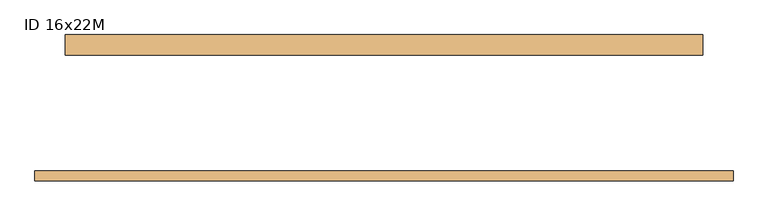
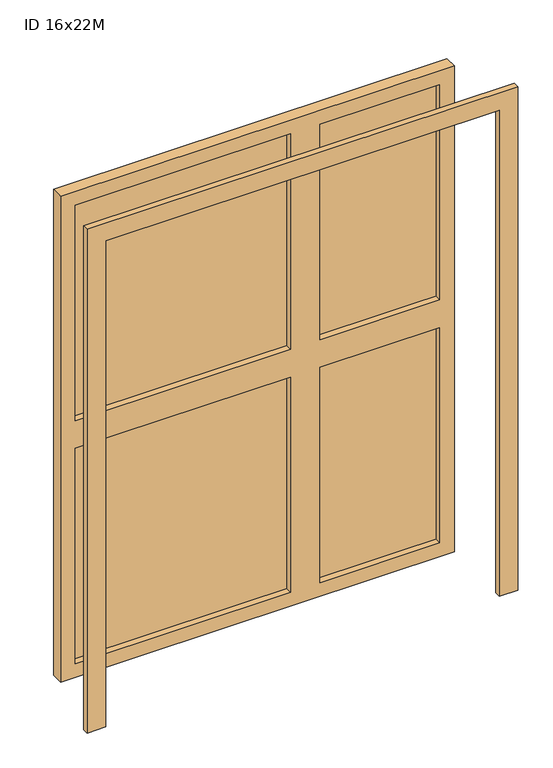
"""IFC4 building model written with IfcOpenShell, lengths in millimetres: door geometry, Y-dør tofløya med glas : ID 16x22M."""

import ifcopenshell
import ifcopenshell.guid

model = None  # the IFC model being written
_history = None  # IfcOwnerHistory: only IFC2X3 demands one
_inside = {}  # id of a spatial element -> (the spatial element, [elements in it])
_under = {}  # id of a project, library or spatial element -> (it, [spatial elements below it])
_declared = {}  # id of a project -> (the project, [libraries it declares])
_typed = {}  # id of a type object -> (the type object, [elements of that type])
_made_of = {}  # id of a material, layer set ... -> (it, [elements and type objects made of it])


def new_model(schema):
    """Start an empty IFC model of exactly this schema.

    Asked for "IFC4X3", IfcOpenShell would pick the latest addendum, in which some entities
    have other attributes; the version numbers below select the first issue.
    IFC2X3 requires an IfcOwnerHistory on every rooted entity: one is made here for all.
    """
    global model, _history
    if schema == "IFC4X3":
        model = ifcopenshell.file(schema_version=(4, 3, 0, 0))
    else:
        model = ifcopenshell.file(schema=schema)
    _inside.clear()
    _under.clear()
    _declared.clear()
    _typed.clear()
    _made_of.clear()
    _history = None
    if model.schema == "IFC2X3":
        org = make("IfcOrganization", Name="unknown")
        user = make(
            "IfcPersonAndOrganization",
            ThePerson=make("IfcPerson", FamilyName="unknown"),
            TheOrganization=org,
        )
        app = make(
            "IfcApplication",
            ApplicationDeveloper=org,
            Version="unknown",
            ApplicationFullName="unknown",
            ApplicationIdentifier="unknown",
        )
        _history = make(
            "IfcOwnerHistory",
            OwningUser=user,
            OwningApplication=app,
            ChangeAction="ADDED",
            CreationDate=0,
        )
    return model


def make(cls, **values):
    """One entity of the class cls with the attributes given. An attribute that is None is left unset."""
    return model.create_entity(
        cls, **{name: value for name, value in values.items() if value is not None}
    )


def rooted(cls, **values):
    """An entity with a GlobalId (a new one), such as an element, a storey or a relation."""
    return make(cls, GlobalId=ifcopenshell.guid.new(), OwnerHistory=_history, **values)


def si_unit(unit_type, name, prefix=None):
    """IfcSIUnit, for example si_unit("LENGTHUNIT", "METRE", prefix="MILLI")."""
    return make("IfcSIUnit", UnitType=unit_type, Prefix=prefix, Name=name)


def assignment(units):
    """IfcUnitAssignment: the units of a project."""
    return None if units is None else make("IfcUnitAssignment", Units=units)


def point(xyz):
    """IfcCartesianPoint."""
    return None if xyz is None else make("IfcCartesianPoint", Coordinates=xyz)


def direction(xyz):
    """IfcDirection."""
    return None if xyz is None else make("IfcDirection", DirectionRatios=xyz)


def frame(location, z_axis=None, x_axis=None):
    """IfcAxis2Placement3D, a coordinate frame: its origin and axes. An axis left out is left unset."""
    return make(
        "IfcAxis2Placement3D",
        Location=point(location),
        Axis=direction(z_axis),
        RefDirection=direction(x_axis),
    )


def origin():
    """The frame at (0, 0, 0) with its axes left unset."""
    return frame((0.0, 0.0, 0.0))


def place(relative_to, where):
    """IfcLocalPlacement: puts the frame where relative to a parent placement (None: the world)."""
    return make(
        "IfcLocalPlacement", PlacementRelTo=relative_to, RelativePlacement=where
    )


def context(
    kind, dimensions, precision=None, world=None, true_north=None, identifier=None
):
    """IfcGeometricRepresentationContext, for example the 3D "Model" context."""
    return make(
        "IfcGeometricRepresentationContext",
        ContextIdentifier=identifier,
        ContextType=kind,
        CoordinateSpaceDimension=dimensions,
        Precision=precision,
        WorldCoordinateSystem=world,
        TrueNorth=true_north,
    )


def project(units=None, contexts=None):
    """IfcProject with its units and contexts."""
    return rooted(
        "IfcProject",
        Name="project",
        RepresentationContexts=contexts,
        UnitsInContext=assignment(units),
    )


def spatial(cls, under=None, at=None, **own):
    """A site, building, storey or space (cls), placed at a placement, below another one or the project."""
    s = rooted(cls, ObjectPlacement=at, **own)
    if under is not None:
        _under.setdefault(under.id(), (under, []))[1].append(s)
    return s


def polyline(points):
    """IfcPolyline through the points."""
    return make("IfcPolyline", Points=[point(p) for p in points])


def outline(outer, holes=None, kind="AREA"):
    """IfcArbitraryClosedProfileDef: a profile drawn as a closed curve; with holes, ...WithVoids."""
    if holes is None:
        return make("IfcArbitraryClosedProfileDef", ProfileType=kind, OuterCurve=outer)
    return make(
        "IfcArbitraryProfileDefWithVoids",
        ProfileType=kind,
        OuterCurve=outer,
        InnerCurves=holes,
    )


def extrude(swept, where, along, depth):
    """IfcExtrudedAreaSolid: the profile swept, set in the frame where, extruded along a direction by depth."""
    return make(
        "IfcExtrudedAreaSolid",
        SweptArea=swept,
        Position=where,
        ExtrudedDirection=direction(along),
        Depth=depth,
    )


def shape(context_of_items, identifier, shape_type, items):
    """IfcShapeRepresentation: the items that make up one representation, for example the "Body"."""
    return make(
        "IfcShapeRepresentation",
        ContextOfItems=context_of_items,
        RepresentationIdentifier=identifier,
        RepresentationType=shape_type,
        Items=items,
    )


def source(mapping_origin, context_of_items, identifier, shape_type, items):
    """IfcRepresentationMap: a shape defined once, which mapped items show again and again."""
    return make(
        "IfcRepresentationMap",
        MappingOrigin=mapping_origin,
        MappedRepresentation=shape(context_of_items, identifier, shape_type, items),
    )


def transform(
    local_origin,
    x_axis=None,
    y_axis=None,
    z_axis=None,
    scale=None,
    scale2=None,
    scale3=None,
    uniform=True,
):
    """IfcCartesianTransformationOperator3D, or its non-uniform kind. x_axis, y_axis, z_axis: its Axis1, 2, 3."""
    if uniform:
        return make(
            "IfcCartesianTransformationOperator3D",
            Axis1=direction(x_axis),
            Axis2=direction(y_axis),
            LocalOrigin=point(local_origin),
            Scale=scale,
            Axis3=direction(z_axis),
        )
    return make(
        "IfcCartesianTransformationOperator3DnonUniform",
        Axis1=direction(x_axis),
        Axis2=direction(y_axis),
        LocalOrigin=point(local_origin),
        Scale=scale,
        Axis3=direction(z_axis),
        Scale2=scale2,
        Scale3=scale3,
    )


def mapped(mapping_source, mapping_target):
    """IfcMappedItem: shows the shape of a source again, moved by a transform."""
    return make(
        "IfcMappedItem", MappingSource=mapping_source, MappingTarget=mapping_target
    )


def made_of(thing, what):
    """Note that an element or type object is made of a material, layer set ...; save() writes the relation."""
    if what is not None:
        _made_of.setdefault(what.id(), (what, []))[1].append(thing)
    return thing


def element(
    cls,
    number,
    at=None,
    inside=None,
    cuts=None,
    type_object=None,
    material=None,
    context=None,
    identifier="Body",
    shape_type=None,
    held_by="IfcProductDefinitionShape",
    body=None,
    shapes=None,
    **own,
):
    """One element of the class cls, such as IfcWall. Its Tag is "e" and its number.

    at: its placement. inside: the storey or other place that contains it. cuts: it is an
    opening in that element (IfcRelVoidsElement). A single representation is given by context,
    identifier, shape_type and body (its items); several are given by shapes. held_by: the class
    of the entity that holds the representations. save() writes the other relations.
    """
    e = rooted(cls, Tag="e%d" % number, ObjectPlacement=at, **own)
    if body is not None:
        shapes = [shape(context, identifier, shape_type, body)]
    if shapes is not None:
        e.Representation = make(held_by, Representations=shapes)
    if inside is not None:
        _inside.setdefault(inside.id(), (inside, []))[1].append(e)
    if cuts is not None:
        rooted(
            "IfcRelVoidsElement", RelatingBuildingElement=cuts, RelatedOpeningElement=e
        )
    if type_object is not None:
        _typed.setdefault(type_object.id(), (type_object, []))[1].append(e)
    return made_of(e, material)


def aggregate(whole, parts):
    """IfcRelAggregates: a whole, such as a stair, and the parts it consists of."""
    return rooted("IfcRelAggregates", RelatingObject=whole, RelatedObjects=parts)


def save(model, path):
    """Write the relations noted so far, then the file.

    IfcRelAggregates (storeys below a building ...), IfcRelContainedInSpatialStructure (elements
    in a storey), IfcRelDefinesByType, IfcRelAssociatesMaterial and IfcRelDeclares: one each for
    every whole, place, type object, material and project.
    """
    for whole, parts in _under.values():
        aggregate(whole, parts)
    for where, things in _inside.values():
        rooted(
            "IfcRelContainedInSpatialStructure",
            RelatedElements=things,
            RelatingStructure=where,
        )
    for kind, things in _typed.values():
        rooted("IfcRelDefinesByType", RelatedObjects=things, RelatingType=kind)
    for what, things in _made_of.values():
        rooted("IfcRelAssociatesMaterial", RelatedObjects=things, RelatingMaterial=what)
    for by, libraries in _declared.values():
        rooted("IfcRelDeclares", RelatingContext=by, RelatedDefinitions=libraries)
    model.write(path)


def id_16x22m_5dfcd5f5(model_context):
    return source(origin(), model_context, "Body", "SweptSolid", [
        extrude(outline(polyline([(2100.0, 102.0), (2100.0, -1508.0), (0.0, -1508.0), (0.0, 102.0), (2100.0, 102.0)]), holes=[polyline([(990.0, -448.0), (990.0, 42.0), (60.0, 42.0), (60.0, -448.0), (990.0, -448.0)]), polyline([(1110.0, -448.0), (2040.0, -448.0), (2040.0, 42.0), (1110.0, 42.0), (1110.0, -448.0)]), polyline([(990.0, -568.0), (60.0, -568.0), (60.0, -1448.0), (990.0, -1448.0), (990.0, -568.0)]), polyline([(2040.0, -568.0), (1110.0, -568.0), (1110.0, -1448.0), (2040.0, -1448.0), (2040.0, -568.0)])]), frame((0.0, 121.0, 0.0), z_axis=(0.0, 1.0, 0.0), x_axis=(0.0, 0.0, 1.0)), (0.0, 0.0, 1.0), 51.0),
        extrude(outline(polyline([(2100.0, -1508.0), (2100.0, 102.0), (0.0, 102.0), (0.0, 178.0), (2176.0, 178.0), (2176.0, -1584.0), (0.0, -1584.0), (0.0, -1508.0), (2100.0, -1508.0)])), frame((0.0, -197.0, 0.0), z_axis=(0.0, 1.0, 0.0), x_axis=(0.0, 0.0, 1.0)), (0.0, 0.0, 1.0), 25.0),
        extrude(outline(polyline([(-448.0, 152.0), (42.0, 152.0), (42.0, 147.0), (-448.0, 147.0), (-448.0, 152.0)])), frame((0.0, 0.0, 1110.0), z_axis=(0.0, 0.0, 1.0), x_axis=(1.0, 0.0, 0.0)), (0.0, 0.0, 1.0), 930.0),
        extrude(outline(polyline([(-1448.0, 152.0), (-568.0, 152.0), (-568.0, 147.0), (-1448.0, 147.0), (-1448.0, 152.0)])), frame((0.0, 0.0, 1110.0), z_axis=(0.0, 0.0, 1.0), x_axis=(1.0, 0.0, 0.0)), (0.0, 0.0, 1.0), 930.0),
        extrude(outline(polyline([(-1448.0, 152.0), (-568.0, 152.0), (-568.0, 147.0), (-1448.0, 147.0), (-1448.0, 152.0)])), frame((0.0, 0.0, 60.0), z_axis=(0.0, 0.0, 1.0), x_axis=(1.0, 0.0, 0.0)), (0.0, 0.0, 1.0), 930.0),
        extrude(outline(polyline([(-448.0, 152.0), (42.0, 152.0), (42.0, 147.0), (-448.0, 147.0), (-448.0, 152.0)])), frame((0.0, 0.0, 60.0), z_axis=(0.0, 0.0, 1.0), x_axis=(1.0, 0.0, 0.0)), (0.0, 0.0, 1.0), 930.0),
    ])


if __name__ == "__main__":
    model = new_model("IFC4")
    model_context = context("Model", 3, world=origin())
    ifc_project = project(units=[si_unit("LENGTHUNIT", "METRE", prefix="MILLI")], contexts=[model_context])
    site = spatial("IfcSite", under=ifc_project)
    building = spatial("IfcBuilding", under=site)
    placement = place(None, origin())
    id_16x22m_shape = id_16x22m_5dfcd5f5(model_context)
    element("IfcDoor", 1, ObjectType="Y-dør tofløya med glas : ID 16x22M", at=placement, inside=building, context=model_context, shape_type="MappedRepresentation", body=[
        mapped(id_16x22m_shape, transform((0.0, 0.0, 0.0), x_axis=(1.0, 0.0, 0.0), y_axis=(0.0, 1.0, 0.0), z_axis=(0.0, 0.0, 1.0))),
    ])
    save(model, "model.ifc")
